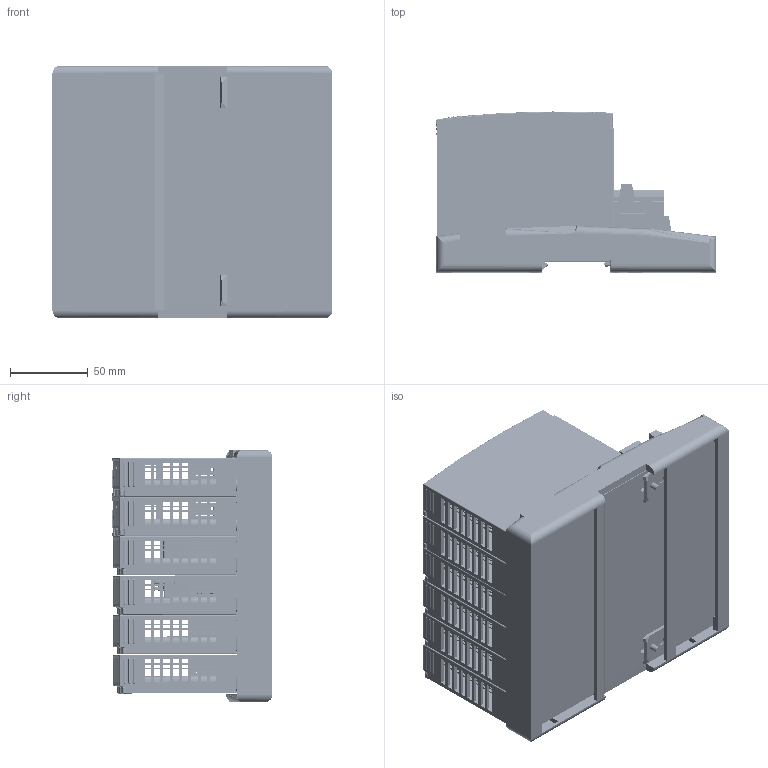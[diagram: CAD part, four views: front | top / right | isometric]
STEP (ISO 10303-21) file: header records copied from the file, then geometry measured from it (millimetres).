
FILE_DESCRIPTION((''),'2;1');
FILE_NAME('2550_4W_NEW_IGESFILE','2012-03-12T',('chrisloe'),(''),'PRO/ENGINEER BY PARAMETRIC TECHNOLOGY CORPORATION, 2010180','PRO/ENGINEER BY PARAMETRIC TECHNOLOGY CORPORATION, 2010180','');
FILE_SCHEMA(('CONFIG_CONTROL_DESIGN'));
Products named in the file (1): 2550_4W_NEW_IGESFILE
Bounding box: 180.4 x 103.39 x 162.4 mm (x, y, z)
Volume: 566671.3 mm3; surface area: 563983.8 mm2
Topology: 2 solids, 23 shells, 18133 faces, 49943 edges, 31948 vertices
Faces by surface type: plane 12614, cylinder 3466, cone 662, bspline 535, torus 522, sphere 318, extrusion 16
Entity records: 607511 total; most frequent: CARTESIAN_POINT 153472, ORIENTED_EDGE 99766, DIRECTION 86764, EDGE_CURVE 49887, VECTOR 34090, LINE 34074, VERTEX_POINT 31948, AXIS2_PLACEMENT_3D 26337
